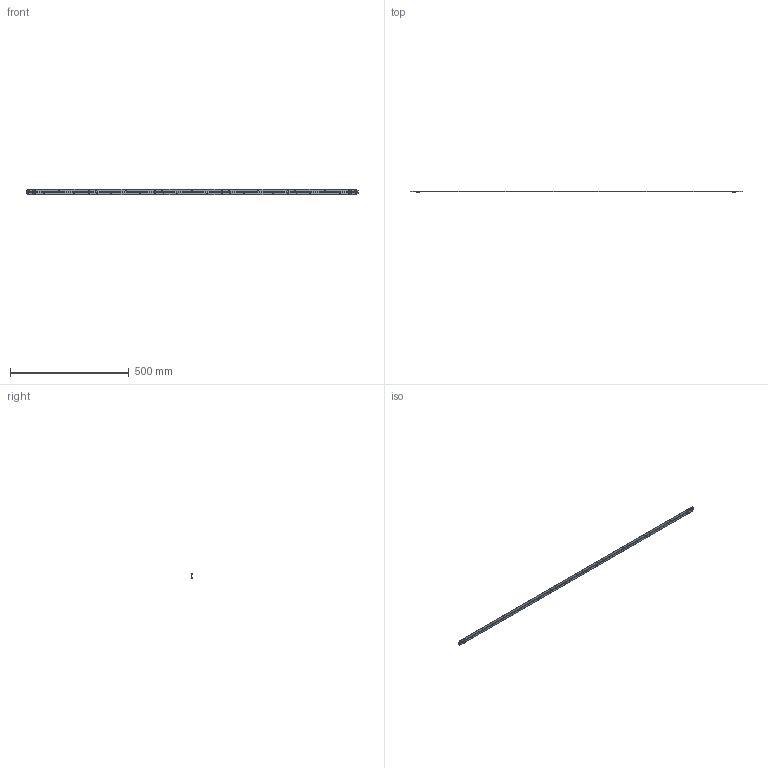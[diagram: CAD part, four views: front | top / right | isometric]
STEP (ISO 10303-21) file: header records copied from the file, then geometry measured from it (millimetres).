
FILE_DESCRIPTION(/* description */ ('Unknown'),/* implementation_level */ '2;1');
FILE_NAME(/* name */ 'LinLED 1400x24mm 5500lm 840 2C+R 60V Opt G1 sh-000 2024-01-31',/* time_stamp */ '2024-01-31T13:02:46+01:00',/* author */ ('Unknown'),/* organization */ ('Unknown'),/* preprocessor_version */ 'ST-DEVELOPER v18.102',/* originating_system */ 'Solid Edge',/* authorisation */ 'Unknown');
FILE_SCHEMA (('AUTOMOTIVE_DESIGN {1 0 10303 214 3 1 1}'));
Products named in the file (1): LinLED 1400x24mm 5500lm 840 2C+R 60V Opt G1 sh-000 2024-01-31
Bounding box: 1399.6 x 4.45 x 24 mm (x, y, z)
Volume: 34520.1 mm3; surface area: 71464.2 mm2
Topology: 1 solids, 1 shells, 3817 faces, 9980 edges, 6504 vertices
Faces by surface type: plane 3174, cylinder 327, torus 128, cone 100, bspline 56, sphere 32
Full cylindrical faces by diameter (mm): 4.3 x10
Entity records: 144058 total; most frequent: CARTESIAN_POINT 25212, ORIENTED_EDGE 19844, DIRECTION 17076, EDGE_CURVE 9922, LINE 8452, VECTOR 8452, VERTEX_POINT 6492, AXIS2_PLACEMENT_3D 4312
